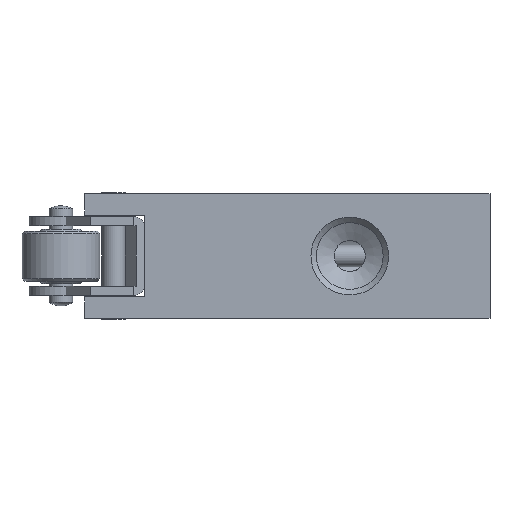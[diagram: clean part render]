
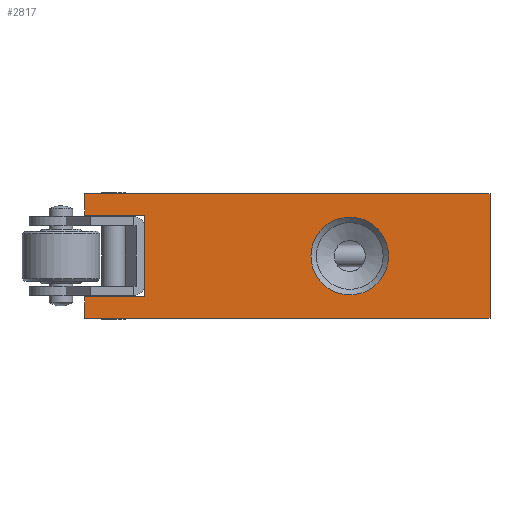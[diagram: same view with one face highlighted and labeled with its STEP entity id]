
A CAD part, front view. The second image highlights one B-rep face of the part: STEP entity #2817.
In plain terms, the highlighted planar face has unit normal (0, -1, 0).
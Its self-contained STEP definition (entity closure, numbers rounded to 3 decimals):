
#164=LINE('',#5130,#350);
#166=LINE('',#5137,#352);
#183=LINE('',#5363,#369);
#184=LINE('',#5367,#370);
#185=LINE('',#5369,#371);
#186=LINE('',#5371,#372);
#187=LINE('',#5373,#373);
#188=LINE('',#5375,#374);
#350=VECTOR('',#4266,1000.);
#352=VECTOR('',#4272,1000.);
#369=VECTOR('',#4341,1000.);
#370=VECTOR('',#4346,1000.);
#371=VECTOR('',#4347,1000.);
#372=VECTOR('',#4348,1000.);
#373=VECTOR('',#4349,1000.);
#374=VECTOR('',#4350,1000.);
#534=PLANE('',#3964);
#797=ORIENTED_EDGE('',*,*,#1524,.T.);
#798=ORIENTED_EDGE('',*,*,#1523,.T.);
#799=ORIENTED_EDGE('',*,*,#1469,.T.);
#800=ORIENTED_EDGE('',*,*,#1525,.F.);
#801=ORIENTED_EDGE('',*,*,#1526,.F.);
#802=ORIENTED_EDGE('',*,*,#1527,.F.);
#803=ORIENTED_EDGE('',*,*,#1528,.T.);
#804=ORIENTED_EDGE('',*,*,#1529,.F.);
#805=ORIENTED_EDGE('',*,*,#1472,.T.);
#1469=EDGE_CURVE('',#1844,#1847,#164,.T.);
#1472=EDGE_CURVE('',#1851,#1849,#166,.T.);
#1523=EDGE_CURVE('',#1849,#1844,#183,.T.);
#1524=EDGE_CURVE('',#1899,#1899,#2107,.F.);
#1525=EDGE_CURVE('',#1900,#1847,#184,.T.);
#1526=EDGE_CURVE('',#1901,#1900,#185,.T.);
#1527=EDGE_CURVE('',#1902,#1901,#186,.T.);
#1528=EDGE_CURVE('',#1902,#1903,#187,.T.);
#1529=EDGE_CURVE('',#1851,#1903,#188,.T.);
#1844=VERTEX_POINT('',#5123);
#1847=VERTEX_POINT('',#5129);
#1849=VERTEX_POINT('',#5135);
#1851=VERTEX_POINT('',#5138);
#1899=VERTEX_POINT('',#5366);
#1900=VERTEX_POINT('',#5368);
#1901=VERTEX_POINT('',#5370);
#1902=VERTEX_POINT('',#5372);
#1903=VERTEX_POINT('',#5374);
#2107=CIRCLE('',#3965,4.983);
#2247=EDGE_LOOP('',(#797));
#2248=EDGE_LOOP('',(#798,#799,#800,#801,#802,#803,#804,#805));
#2541=FACE_BOUND('',#2247,.T.);
#2542=FACE_BOUND('',#2248,.T.);
#2817=ADVANCED_FACE('',(#2541,#2542),#534,.T.);
#3964=AXIS2_PLACEMENT_3D('',#5364,#4342,#4343);
#3965=AXIS2_PLACEMENT_3D('',#5365,#4344,#4345);
#4266=DIRECTION('',(-1.,0.,0.));
#4272=DIRECTION('',(1.,0.,0.));
#4341=DIRECTION('',(0.,0.,1.));
#4342=DIRECTION('',(0.,-1.,0.));
#4343=DIRECTION('',(1.,0.,0.));
#4344=DIRECTION('',(0.,-1.,0.));
#4345=DIRECTION('',(0.,0.,-1.));
#4346=DIRECTION('',(0.,0.,1.));
#4347=DIRECTION('',(-1.,0.,0.));
#4348=DIRECTION('',(0.,0.,1.));
#4349=DIRECTION('',(-1.,0.,0.));
#4350=DIRECTION('',(0.,0.,1.));
#5123=CARTESIAN_POINT('',(0.,-15.,8.));
#5129=CARTESIAN_POINT('',(-52.,-15.,8.));
#5130=CARTESIAN_POINT('',(0.,-15.,8.));
#5135=CARTESIAN_POINT('',(0.,-15.,-8.));
#5137=CARTESIAN_POINT('',(-52.,-15.,-8.));
#5138=CARTESIAN_POINT('',(-52.,-15.,-8.));
#5363=CARTESIAN_POINT('',(0.,-15.,-8.));
#5364=CARTESIAN_POINT('',(-52.,-15.,-8.));
#5365=CARTESIAN_POINT('',(-18.,-15.,0.));
#5366=CARTESIAN_POINT('',(-18.,-15.,-4.983));
#5367=CARTESIAN_POINT('',(-52.,-15.,5.25));
#5368=CARTESIAN_POINT('',(-52.,-15.,5.25));
#5369=CARTESIAN_POINT('',(-43.2,-15.,5.25));
#5370=CARTESIAN_POINT('',(-44.297,-15.,5.25));
#5371=CARTESIAN_POINT('',(-44.297,-15.,-5.25));
#5372=CARTESIAN_POINT('',(-44.297,-15.,-5.25));
#5373=CARTESIAN_POINT('',(-43.2,-15.,-5.25));
#5374=CARTESIAN_POINT('',(-52.,-15.,-5.25));
#5375=CARTESIAN_POINT('',(-52.,-15.,-8.));
